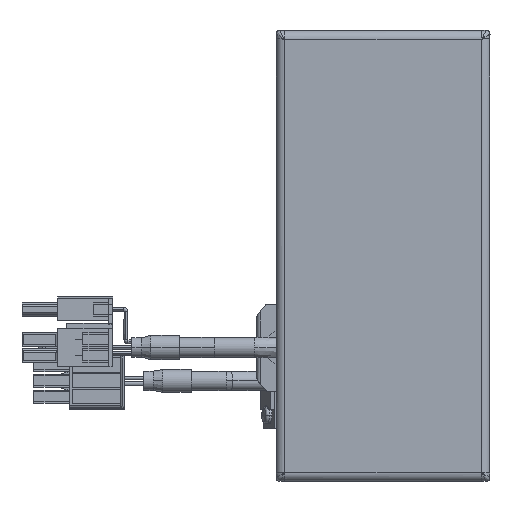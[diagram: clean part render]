
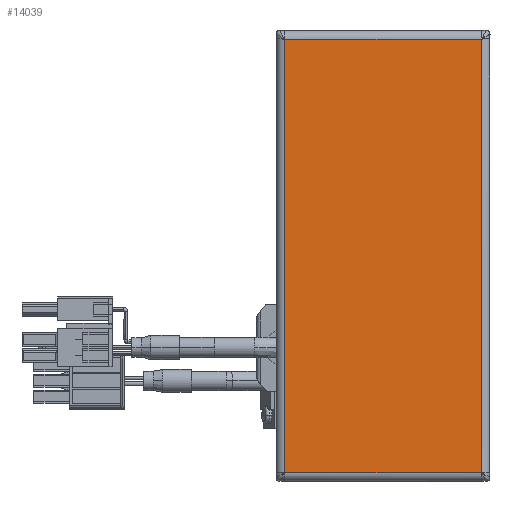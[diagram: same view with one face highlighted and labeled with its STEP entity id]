
A CAD part, top view. The second image highlights one B-rep face of the part: STEP entity #14039.
In plain terms, the highlighted planar face has unit normal (0, 0, 1) as drawn and (0, 0, -1) by its records, which use the part's own axes.
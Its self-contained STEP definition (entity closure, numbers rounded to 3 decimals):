
#3223 = CARTESIAN_POINT ( 'NONE',  ( -56.763, 25.763, -1.5 ) ) ;
#6510 = EDGE_LOOP ( 'NONE', ( #25335, #48989, #32780, #11347 ) ) ;
#6701 = VECTOR ( 'NONE', #56644, 1000. ) ;
#7609 = EDGE_CURVE ( 'NONE', #30319, #10768, #37697, .T. ) ;
#9638 = CARTESIAN_POINT ( 'NONE',  ( 56.763, -25.763, -1.5 ) ) ;
#10487 = LINE ( 'NONE', #28369, #56793 ) ;
#10768 = VERTEX_POINT ( 'NONE', #9638 ) ;
#11147 = CARTESIAN_POINT ( 'NONE',  ( 56.793, -25.763, -1.5 ) ) ;
#11347 = ORIENTED_EDGE ( 'NONE', *, *, #34286, .T. ) ;
#14039 = ADVANCED_FACE ( 'NONE', ( #20737 ), #40294, .T. ) ;
#14619 = DIRECTION ( 'NONE',  ( 1., 0., 0. ) ) ;
#16717 = EDGE_CURVE ( 'NONE', #45315, #42605, #31316, .T. ) ;
#17218 = CARTESIAN_POINT ( 'NONE',  ( 0., 0., -1.5 ) ) ;
#19314 = VECTOR ( 'NONE', #38869, 1000. ) ;
#20341 = DIRECTION ( 'NONE',  ( 0., -1., 0. ) ) ;
#20737 = FACE_OUTER_BOUND ( 'NONE', #6510, .T. ) ;
#21845 = DIRECTION ( 'NONE',  ( -1., 0., 0. ) ) ;
#25335 = ORIENTED_EDGE ( 'NONE', *, *, #7609, .T. ) ;
#28369 = CARTESIAN_POINT ( 'NONE',  ( -56.793, 25.763, -1.5 ) ) ;
#28924 = CARTESIAN_POINT ( 'NONE',  ( -56.763, -25.793, -1.5 ) ) ;
#29667 = CARTESIAN_POINT ( 'NONE',  ( 56.763, 25.793, -1.5 ) ) ;
#30319 = VERTEX_POINT ( 'NONE', #42152 ) ;
#31316 = LINE ( 'NONE', #28924, #6701 ) ;
#32780 = ORIENTED_EDGE ( 'NONE', *, *, #16717, .T. ) ;
#33348 = VECTOR ( 'NONE', #20341, 1000. ) ;
#34286 = EDGE_CURVE ( 'NONE', #42605, #30319, #10487, .T. ) ;
#37697 = LINE ( 'NONE', #29667, #33348 ) ;
#38869 = DIRECTION ( 'NONE',  ( -1., 0., 0. ) ) ;
#39863 = EDGE_CURVE ( 'NONE', #10768, #45315, #41030, .T. ) ;
#40294 = PLANE ( 'NONE',  #41404 ) ;
#41030 = LINE ( 'NONE', #11147, #19314 ) ;
#41404 = AXIS2_PLACEMENT_3D ( 'NONE', #17218, #49603, #21845 ) ;
#42152 = CARTESIAN_POINT ( 'NONE',  ( 56.763, 25.763, -1.5 ) ) ;
#42605 = VERTEX_POINT ( 'NONE', #3223 ) ;
#45315 = VERTEX_POINT ( 'NONE', #58462 ) ;
#48989 = ORIENTED_EDGE ( 'NONE', *, *, #39863, .T. ) ;
#49603 = DIRECTION ( 'NONE',  ( 0., 0., -1. ) ) ;
#56644 = DIRECTION ( 'NONE',  ( 0., 1., 0. ) ) ;
#56793 = VECTOR ( 'NONE', #14619, 1000. ) ;
#58462 = CARTESIAN_POINT ( 'NONE',  ( -56.763, -25.763, -1.5 ) ) ;
